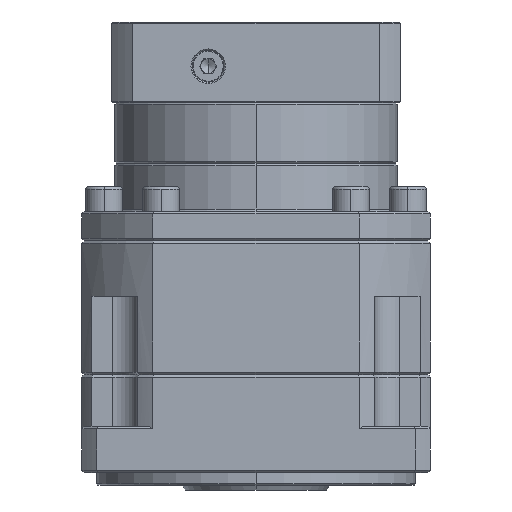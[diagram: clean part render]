
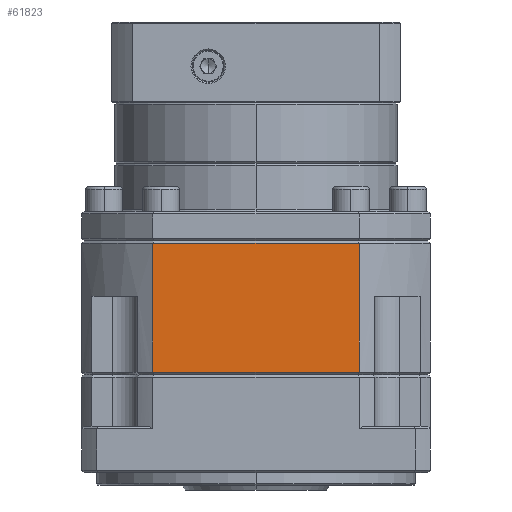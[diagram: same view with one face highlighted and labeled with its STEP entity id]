
A CAD part, left-side view. The second image highlights one B-rep face of the part: STEP entity #61823.
In plain terms, the highlighted planar face has unit normal (-1, 0, 0).
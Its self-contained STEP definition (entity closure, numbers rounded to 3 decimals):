
#881 = PLANE ( 'NONE',  #122467 ) ;
#2434 = EDGE_CURVE ( 'NONE', #37310, #65705, #115297, .T. ) ;
#4623 = ORIENTED_EDGE ( 'NONE', *, *, #139169, .F. ) ;
#7105 = CARTESIAN_POINT ( 'NONE',  ( -245.735, 5.693, -97.3 ) ) ;
#8597 = DIRECTION ( 'NONE',  ( 0., 0., -1. ) ) ;
#8617 = CARTESIAN_POINT ( 'NONE',  ( -245.735, 76.693, -44.8 ) ) ;
#9390 = VECTOR ( 'NONE', #74832, 1000. ) ;
#10324 = DIRECTION ( 'NONE',  ( 0., 0., -1. ) ) ;
#14617 = LINE ( 'NONE', #40115, #100374 ) ;
#16928 = ORIENTED_EDGE ( 'NONE', *, *, #89328, .F. ) ;
#27957 = CARTESIAN_POINT ( 'NONE',  ( -245.735, 34.678, -97.3 ) ) ;
#28752 = DIRECTION ( 'NONE',  ( 0., 1., 0. ) ) ;
#31634 = VECTOR ( 'NONE', #36290, 1000. ) ;
#33034 = LINE ( 'NONE', #7105, #36357 ) ;
#36290 = DIRECTION ( 'NONE',  ( 0., 0., 1. ) ) ;
#36357 = VECTOR ( 'NONE', #28752, 1000. ) ;
#37310 = VERTEX_POINT ( 'NONE', #62103 ) ;
#40115 = CARTESIAN_POINT ( 'NONE',  ( -245.735, 34.678, -43.8 ) ) ;
#41851 = CARTESIAN_POINT ( 'NONE',  ( -245.735, 5.693, -43.8 ) ) ;
#47145 = VERTEX_POINT ( 'NONE', #27957 ) ;
#50692 = ORIENTED_EDGE ( 'NONE', *, *, #138326, .F. ) ;
#52264 = FACE_OUTER_BOUND ( 'NONE', #125673, .T. ) ;
#61823 = ADVANCED_FACE ( 'NONE', ( #52264 ), #881, .F. ) ;
#62103 = CARTESIAN_POINT ( 'NONE',  ( -245.735, 118.708, -44.8 ) ) ;
#65705 = VERTEX_POINT ( 'NONE', #131756 ) ;
#67173 = ORIENTED_EDGE ( 'NONE', *, *, #2434, .F. ) ;
#74832 = DIRECTION ( 'NONE',  ( 0., -1., 0. ) ) ;
#77473 = VERTEX_POINT ( 'NONE', #135472 ) ;
#89328 = EDGE_CURVE ( 'NONE', #65705, #47145, #14617, .T. ) ;
#95519 = LINE ( 'NONE', #122765, #31634 ) ;
#100374 = VECTOR ( 'NONE', #8597, 1000. ) ;
#115297 = LINE ( 'NONE', #8617, #9390 ) ;
#117087 = DIRECTION ( 'NONE',  ( 1., 0., 0. ) ) ;
#122467 = AXIS2_PLACEMENT_3D ( 'NONE', #41851, #117087, #10324 ) ;
#122765 = CARTESIAN_POINT ( 'NONE',  ( -245.735, 118.708, -43.8 ) ) ;
#125673 = EDGE_LOOP ( 'NONE', ( #50692, #4623, #16928, #67173 ) ) ;
#131756 = CARTESIAN_POINT ( 'NONE',  ( -245.735, 34.678, -44.8 ) ) ;
#135472 = CARTESIAN_POINT ( 'NONE',  ( -245.735, 118.708, -97.3 ) ) ;
#138326 = EDGE_CURVE ( 'NONE', #77473, #37310, #95519, .T. ) ;
#139169 = EDGE_CURVE ( 'NONE', #47145, #77473, #33034, .T. ) ;
